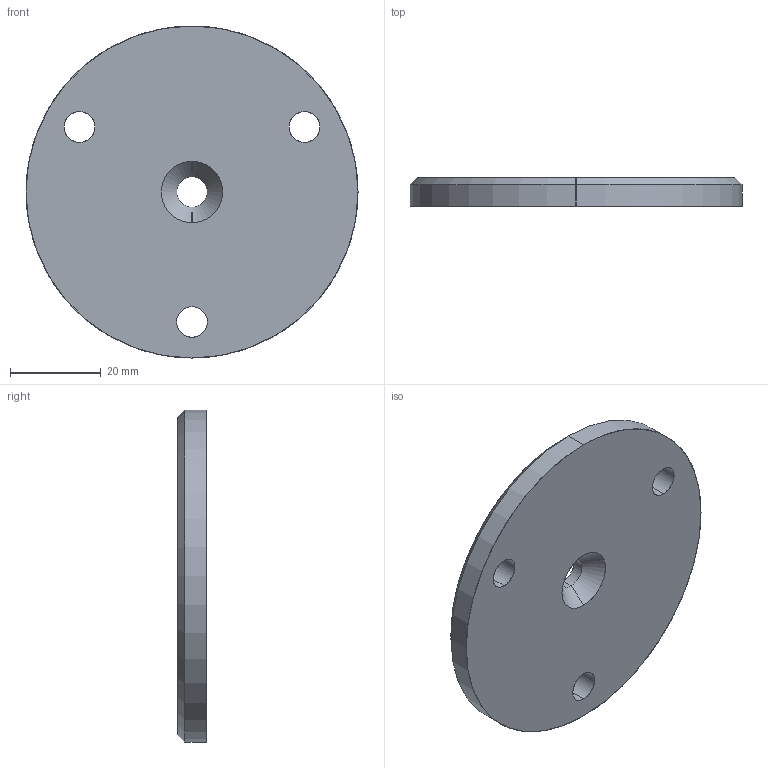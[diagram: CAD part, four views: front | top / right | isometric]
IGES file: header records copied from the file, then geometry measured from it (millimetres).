
Start section: SolidWorks IGES file using analytic representation for surfaces
Global section: file name: \\SERVER3\Design\_New Design Drive Folder List\_Design Vault\AAI\Modular Round Tube Connectors\Solidworks Models\STP Files\12202013\1.000 Inch Modular Connectors\DRP-002-0506-00.IGS; native system: SolidWorks 2013; preprocessor: SolidWorks 2013; author: tbraun; date: 131220.112047; units: inch
Bounding box: 73.03 x 6.35 x 73.03 mm (x, y, z)
Surface area: 9842.9 mm2 (no closed solid volume)
Topology: 0 solids, 0 shells, 16 faces, 440 edges, 440 vertices
Faces by surface type: revolution 14, bspline 2
